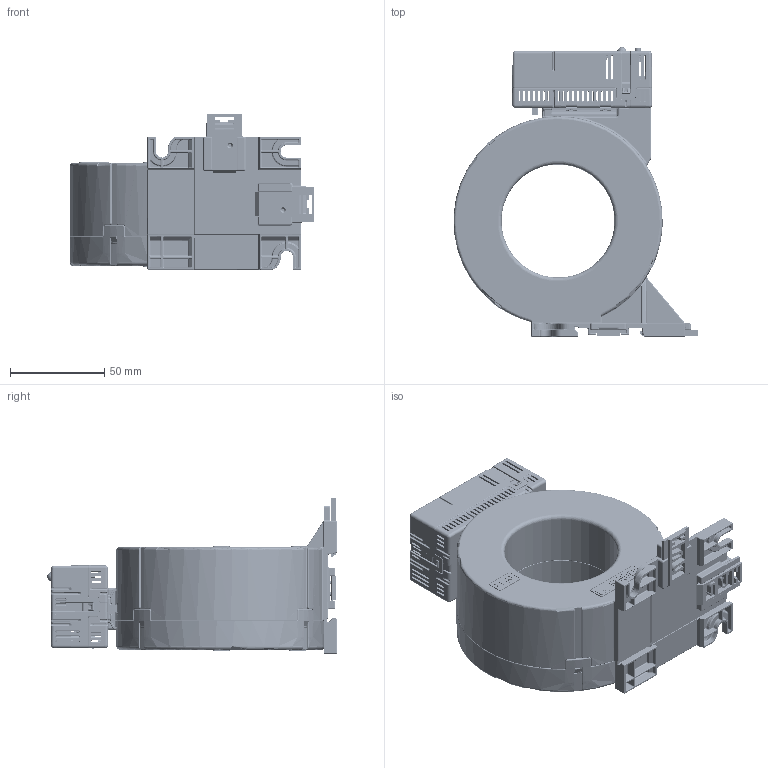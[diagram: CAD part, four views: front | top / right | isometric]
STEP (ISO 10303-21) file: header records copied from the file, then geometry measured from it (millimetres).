
FILE_DESCRIPTION (( 'STEP AP214' ), '1' );
FILE_NAME ('CTUB10x-CTBC60x.STEP', '2019-04-12T08:10:36', ( 'Administrator' ), ( '' ), 'SwSTEP 2.0', 'SolidWorks 2019', '' );
FILE_SCHEMA (( 'AUTOMOTIVE_DESIGN' ));
Length unit declared in the file: millimetre
Products named in the file (1): CTUB10x-CTBC60x
Bounding box: 129.7 x 153.35 x 82.4 mm (x, y, z)
Volume: 145633.6 mm3; surface area: 153554.2 mm2
Topology: 6 solids, 7 shells, 9448 faces, 23528 edges, 13920 vertices
Faces by surface type: cylinder 2822, plane 2621, bspline 2208, torus 1043, cone 404, sphere 350
Entity records: 444761 total; most frequent: CARTESIAN_POINT 133870, ORIENTED_EDGE 46284, DIRECTION 39620, EDGE_CURVE 23142, AXIS2_PLACEMENT_3D 14477, VERTEX_POINT 13903, LINE 10666, VECTOR 10666
